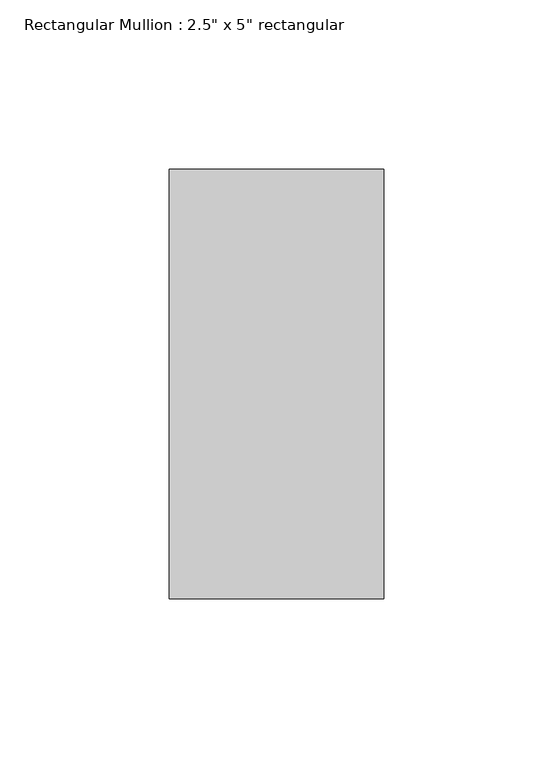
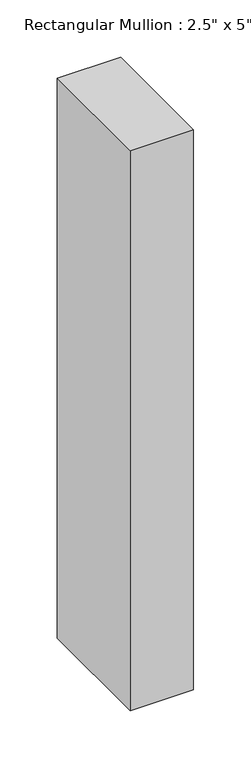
"""IFC4 building model written with IfcOpenShell, lengths in millimetres: member geometry."""

from ifc_helpers import new_model, si_unit, frame, origin, place, context, project, spatial, polyline, outline, extrude, source, transform, mapped, element, save


def member_5aa65f11(model_context):
    return source(origin(), model_context, "Body", "SweptSolid", [
        extrude(outline(polyline([(0.0, 63.5), (0.0, -63.5), (-63.5, -63.5), (-63.5, 63.5), (0.0, 63.5)])), frame((0.0, 0.0, -595.4), z_axis=(0.0, 0.0, 1.0), x_axis=(1.0, 0.0, 0.0)), (0.0, 0.0, 1.0), 595.4),
    ])


if __name__ == "__main__":
    model = new_model("IFC4")
    model_context = context("Model", 3, world=origin())
    ifc_project = project(units=[si_unit("LENGTHUNIT", "METRE", prefix="MILLI")], contexts=[model_context])
    site = spatial("IfcSite", under=ifc_project)
    building = spatial("IfcBuilding", under=site)
    placement = place(None, origin())
    member_shape = member_5aa65f11(model_context)
    element("IfcMember", 1, ObjectType="Rectangular Mullion : 2.5\" x 5\" rectangular", at=placement, inside=building, context=model_context, shape_type="MappedRepresentation", body=[
        mapped(member_shape, transform((0.0, 0.0, 0.0), x_axis=(1.0, 0.0, 0.0), y_axis=(0.0, 1.0, 0.0), z_axis=(0.0, 0.0, 1.0))),
    ])
    save(model, "model.ifc")
